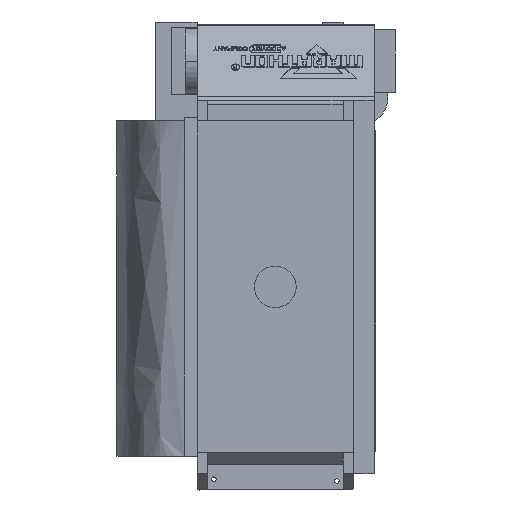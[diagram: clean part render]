
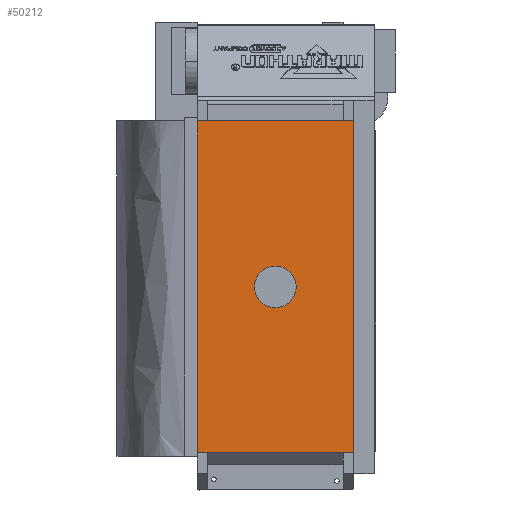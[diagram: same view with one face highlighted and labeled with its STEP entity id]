
A CAD part, front view. The second image highlights one B-rep face of the part: STEP entity #50212.
In plain terms, the highlighted planar face has unit normal (0, -1, 0).
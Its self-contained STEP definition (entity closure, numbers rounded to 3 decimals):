
#15674=CARTESIAN_POINT('',(-28.102,-48.253,3.795));
#15675=DIRECTION('',(0.,-1.,0.));
#15676=DIRECTION('',(-1.,0.,0.));
#15677=AXIS2_PLACEMENT_3D('',#15674,#15675,#15676);
#15679=CARTESIAN_POINT('',(-28.102,-48.253,3.795));
#15680=DIRECTION('',(0.,-1.,0.));
#15681=DIRECTION('',(1.,0.,0.));
#15682=AXIS2_PLACEMENT_3D('',#15679,#15680,#15681);
#15684=DIRECTION('',(-0.139,0.,-0.99));
#15685=VECTOR('',#15684,30.022);
#15686=CARTESIAN_POINT('',(5.518,-48.253,14.218));
#15687=LINE('',#15686,#15685);
#15688=DIRECTION('',(-0.99,0.,0.139));
#15689=VECTOR('',#15688,63.686);
#15690=CARTESIAN_POINT('',(1.34,-48.253,-15.512));
#15691=LINE('',#15690,#15689);
#15692=DIRECTION('',(0.139,0.,0.99));
#15693=VECTOR('',#15692,30.022);
#15694=CARTESIAN_POINT('',(-61.726,-48.253,-6.649));
#15695=LINE('',#15694,#15693);
#15696=DIRECTION('',(-0.99,0.,0.139));
#15697=VECTOR('',#15696,63.686);
#15698=CARTESIAN_POINT('',(5.518,-48.253,14.218));
#15699=LINE('',#15698,#15697);
#23215=CARTESIAN_POINT('',(1.34,-48.253,-15.512));
#23216=CARTESIAN_POINT('',(-61.726,-48.253,-6.649));
#23217=VERTEX_POINT('',#23215);
#23218=VERTEX_POINT('',#23216);
#23231=CARTESIAN_POINT('',(-32.102,-48.253,3.795));
#23232=VERTEX_POINT('',#23231);
#23233=CARTESIAN_POINT('',(-24.102,-48.253,3.795));
#23234=VERTEX_POINT('',#23233);
#23339=CARTESIAN_POINT('',(5.518,-48.253,14.218));
#23341=VERTEX_POINT('',#23339);
#23343=CARTESIAN_POINT('',(-57.548,-48.253,23.081));
#23345=VERTEX_POINT('',#23343);
#50195=CARTESIAN_POINT('',(0.,-48.253,0.));
#50196=DIRECTION('',(0.,-1.,0.));
#50197=DIRECTION('',(-1.,0.,0.));
#50198=AXIS2_PLACEMENT_3D('',#50195,#50196,#50197);
#50199=PLANE('',#50198);
#50200=ORIENTED_EDGE('',*,*,#30700,.T.);
#50201=ORIENTED_EDGE('',*,*,#32238,.T.);
#50202=ORIENTED_EDGE('',*,*,#34152,.T.);
#50203=ORIENTED_EDGE('',*,*,#50169,.F.);
#50204=EDGE_LOOP('',(#50200,#50201,#50202,#50203));
#50205=FACE_OUTER_BOUND('',#50204,.F.);
#50207=ORIENTED_EDGE('',*,*,#50206,.T.);
#50209=ORIENTED_EDGE('',*,*,#50208,.T.);
#50210=EDGE_LOOP('',(#50207,#50209));
#50211=FACE_BOUND('',#50210,.F.);
#50212=ADVANCED_FACE('',(#50205,#50211),#50199,.T.);
#15678=CIRCLE('',#15677,4.);
#15683=CIRCLE('',#15682,4.);
#30700=EDGE_CURVE('',#23341,#23217,#15687,.T.);
#32238=EDGE_CURVE('',#23217,#23218,#15691,.T.);
#34152=EDGE_CURVE('',#23218,#23345,#15695,.T.);
#50169=EDGE_CURVE('',#23341,#23345,#15699,.T.);
#50206=EDGE_CURVE('',#23232,#23234,#15678,.T.);
#50208=EDGE_CURVE('',#23234,#23232,#15683,.T.);
